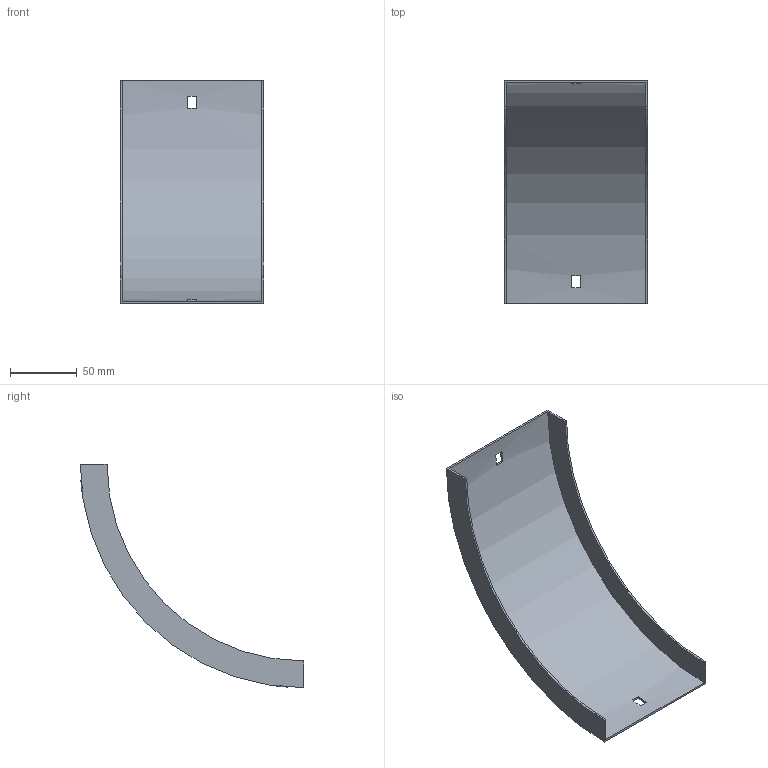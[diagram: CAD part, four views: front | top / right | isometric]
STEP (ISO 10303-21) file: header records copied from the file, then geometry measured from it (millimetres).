
FILE_DESCRIPTION (( 'STEP AP214' ), '1' );
FILE_NAME ('33N1H100.step', '2025-02-21T09:18:28', ( '' ), ( '' ), 'SwSTEP 2.0', 'SolidWorks 2023', '' );
FILE_SCHEMA (( 'AUTOMOTIVE_DESIGN' ));
Length unit declared in the file: millimetre
Products named in the file (1): 33N1H100
Bounding box: 107 x 167 x 167 mm (x, y, z)
Volume: 55359.1 mm3; surface area: 75033.9 mm2
Topology: 1 solids, 1 shells, 18 faces, 48 edges, 32 vertices
Faces by surface type: plane 14, cylinder 4
Entity records: 599 total; most frequent: DIRECTION 102, CARTESIAN_POINT 99, ORIENTED_EDGE 96, EDGE_CURVE 48, AXIS2_PLACEMENT_3D 35, LINE 32, VECTOR 32, VERTEX_POINT 32
